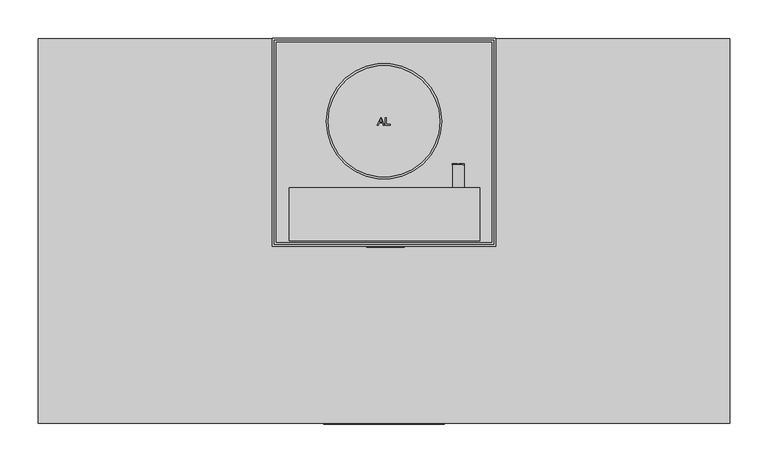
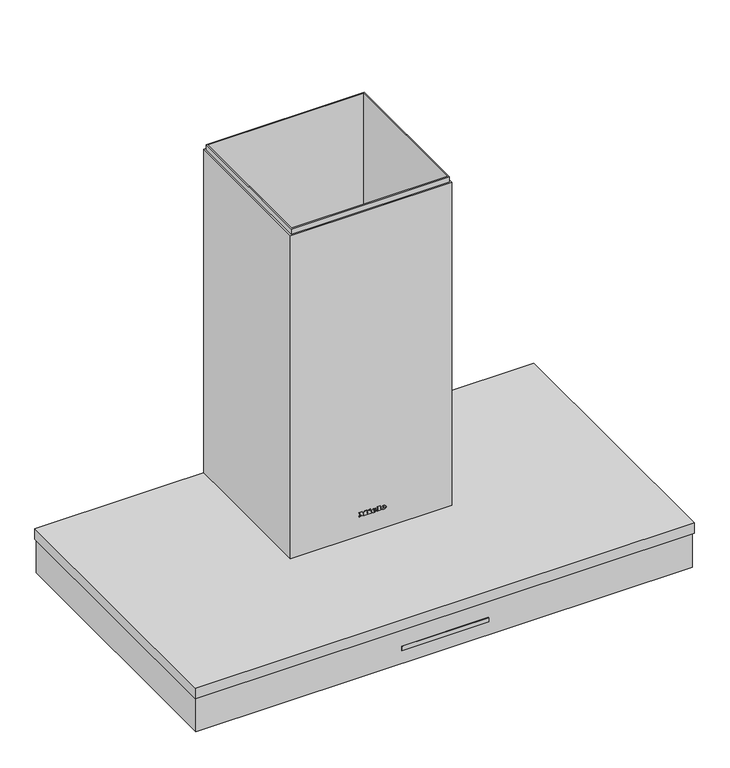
"""IFC4 building model written with IfcOpenShell, lengths in millimetres: proxy geometry, 10842840_CH_DA6698W_EDST : 28669850_CH_10842840_DA6698W_EDST."""

from ifc_helpers import new_model, si_unit, point, frame, frame_2d, origin, origin_with_axes, place, context, project, spatial, polyline, circle_curve, ellipse_curve, trimmed, segment, composite_curve, outline, extrude, faceted_brep, source, transform, mapped, element, save
from ifc_brep_helpers import plane_surface, cylinder_surface, revolved_surface, extruded_surface, advanced_brep


def specialty_equipment_41bf8d77(model_context):
    return source(origin(), model_context, "Body", "SolidModel", [
        advanced_brep(
        [(-270.0, -20.971114, 2.6236572), (-270.0, -76.028886, 17.3763428), (-270.0, -48.5, 10.0), (-270.0, -22.9370789, 1.9081045), (-270.0, -74.6840869, 15.7736735), (-270.0, -48.8105829, 8.840889)],
        [
            (0, 1, circle_curve(frame((-270.0, -48.5, 10.0), z_axis=(0.0, 0.25881904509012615, 0.9659258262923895), x_axis=(0.0, -0.9659258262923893, 0.2588190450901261)), 28.5)),
            (1, 2),
            (2, 0),
            (1, 0, circle_curve(frame((-270.0, -48.5, 10.0), z_axis=(0.0, 0.25881904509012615, 0.9659258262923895), x_axis=(0.0, -0.9659258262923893, 0.2588190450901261)), 28.5)),
            (0, 3),
            (3, 4, circle_curve(frame((-270.0, -48.8105829, 8.840889), z_axis=(0.0, 0.25881904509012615, 0.9659258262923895), x_axis=(0.0, -0.9659258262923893, 0.2588190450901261)), 26.7862224)),
            (4, 1),
            (4, 3, circle_curve(frame((-270.0, -48.8105829, 8.840889), z_axis=(0.0, 0.25881904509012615, 0.9659258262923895), x_axis=(0.0, -0.9659258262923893, 0.2588190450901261)), 26.7862224)),
            (3, 5),
            (5, 4),
        ],
        [
            plane_surface(frame((-270.0, -48.5, 10.0), z_axis=(0.0, 0.25881904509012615, 0.9659258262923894), x_axis=(0.0, -0.9659258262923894, 0.25881904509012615))),
            revolved_surface(polyline([(-270.0, -76.028886, 17.3763428), (-270.0, -74.6840869, 15.7736735)]), (-270.0, -48.5, 10.0), (0.0, -0.2588190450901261, -0.9659258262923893)),
            plane_surface(frame((-270.0, -48.8105829, 8.840889), z_axis=(0.0, -0.25881904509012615, -0.9659258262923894), x_axis=(0.0, -0.9659258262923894, 0.25881904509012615))),
        ],
        [
            (0, [[1, 2, 3]]),
            (0, [[-2, 4, -3]]),
            (1, [[-1, 5, 6, 7]]),
            (1, [[-4, -7, 8, -5]]),
            (2, [[-6, 9, 10]]),
            (2, [[-8, -10, -9]]),
        ],
    ),
        advanced_brep(
        [(0.0, -20.971114, 2.6236572), (0.0, -76.028886, 17.3763428), (0.0, -48.5, 10.0), (0.0, -22.9370789, 1.9081045), (0.0, -74.6840869, 15.7736735), (0.0, -48.8105829, 8.840889)],
        [
            (0, 1, circle_curve(frame((0.0, -48.5, 10.0), z_axis=(0.0, 0.2588190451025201, 0.9659258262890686), x_axis=(0.0, -0.9659258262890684, 0.25881904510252)), 28.5)),
            (1, 2),
            (2, 0),
            (1, 0, circle_curve(frame((0.0, -48.5, 10.0), z_axis=(0.0, 0.2588190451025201, 0.9659258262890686), x_axis=(0.0, -0.9659258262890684, 0.25881904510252)), 28.5)),
            (0, 3),
            (3, 4, circle_curve(frame((0.0, -48.8105829, 8.840889), z_axis=(0.0, 0.2588190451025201, 0.9659258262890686), x_axis=(0.0, -0.9659258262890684, 0.25881904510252)), 26.7862224)),
            (4, 1),
            (4, 3, circle_curve(frame((0.0, -48.8105829, 8.840889), z_axis=(0.0, 0.2588190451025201, 0.9659258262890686), x_axis=(0.0, -0.9659258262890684, 0.25881904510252)), 26.7862224)),
            (3, 5),
            (5, 4),
        ],
        [
            plane_surface(frame((0.0, -48.5, 10.0), z_axis=(0.0, 0.2588190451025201, 0.9659258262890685), x_axis=(0.0, -0.9659258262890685, 0.2588190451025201))),
            revolved_surface(polyline([(0.0, -76.028886, 17.3763428), (0.0, -74.6840869, 15.7736735)]), (0.0, -48.5, 10.0), (0.0, -0.25881904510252, -0.9659258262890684)),
            plane_surface(frame((0.0, -48.8105829, 8.840889), z_axis=(0.0, -0.2588190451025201, -0.9659258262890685), x_axis=(0.0, -0.9659258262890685, 0.2588190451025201))),
        ],
        [
            (0, [[1, 2, 3]]),
            (0, [[-2, 4, -3]]),
            (1, [[-1, 5, 6, 7]]),
            (1, [[-4, -7, 8, -5]]),
            (2, [[-6, 9, 10]]),
            (2, [[-8, -10, -9]]),
        ],
    ),
        advanced_brep(
        [(270.0, -20.971114, 2.6236572), (270.0, -76.028886, 17.3763428), (270.0, -48.5, 10.0), (270.0, -22.9370789, 1.9081045), (270.0, -74.6840869, 15.7736735), (270.0, -48.8105829, 8.840889)],
        [
            (0, 1, circle_curve(frame((270.0, -48.5, 10.0), z_axis=(0.0, 0.2588190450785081, 0.9659258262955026), x_axis=(0.0, -0.9659258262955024, 0.25881904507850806)), 28.5)),
            (1, 2),
            (2, 0),
            (1, 0, circle_curve(frame((270.0, -48.5, 10.0), z_axis=(0.0, 0.2588190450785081, 0.9659258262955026), x_axis=(0.0, -0.9659258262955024, 0.25881904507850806)), 28.5)),
            (0, 3),
            (3, 4, circle_curve(frame((270.0, -48.8105829, 8.840889), z_axis=(0.0, 0.2588190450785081, 0.9659258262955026), x_axis=(0.0, -0.9659258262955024, 0.25881904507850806)), 26.7862224)),
            (4, 1),
            (4, 3, circle_curve(frame((270.0, -48.8105829, 8.840889), z_axis=(0.0, 0.2588190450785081, 0.9659258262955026), x_axis=(0.0, -0.9659258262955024, 0.25881904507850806)), 26.7862224)),
            (3, 5),
            (5, 4),
        ],
        [
            plane_surface(frame((270.0, -48.5, 10.0), z_axis=(0.0, 0.2588190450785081, 0.9659258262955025), x_axis=(0.0, -0.9659258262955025, 0.2588190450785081))),
            revolved_surface(polyline([(270.0, -76.028886, 17.3763428), (270.0, -74.6840869, 15.7736735)]), (270.0, -48.5, 10.0), (0.0, -0.25881904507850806, -0.9659258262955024)),
            plane_surface(frame((270.0, -48.8105829, 8.840889), z_axis=(0.0, -0.2588190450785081, -0.9659258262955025), x_axis=(0.0, -0.9659258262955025, 0.2588190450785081))),
        ],
        [
            (0, [[1, 2, 3]]),
            (0, [[-2, 4, -3]]),
            (1, [[-1, 5, 6, 7]]),
            (1, [[-4, -7, 8, -5]]),
            (2, [[-6, 9, 10]]),
            (2, [[-8, -10, -9]]),
        ],
    ),
        extrude(outline(polyline([(131.6666667, -106.0), (131.6666667, -464.0), (-131.6666667, -464.0), (-131.6666667, -106.0), (131.6666667, -106.0)])), frame((0.0, 0.0, 6.5), z_axis=(0.0, 0.0, 1.0), x_axis=(1.0, 0.0, 0.0)), (0.0, 0.0, 1.0), 6.0),
        extrude(outline(polyline([(140.6666667, -97.0), (140.6666667, -473.0), (-140.6666667, -473.0), (-140.6666667, -97.0), (140.6666667, -97.0)]), holes=[polyline([(131.6666667, -106.0), (-131.6666667, -106.0), (-131.6666667, -464.0), (131.6666667, -464.0), (131.6666667, -106.0)])]), frame((0.0, 0.0, 5.0), z_axis=(0.0, 0.0, 1.0), x_axis=(1.0, 0.0, 0.0)), (0.0, 0.0, 1.0), 9.0),
        extrude(outline(polyline([(149.6666667, -106.0), (413.0, -106.0), (413.0, -464.0), (149.6666667, -464.0), (149.6666667, -106.0)])), frame((0.0, 0.0, 6.5), z_axis=(0.0, 0.0, 1.0), x_axis=(1.0, 0.0, 0.0)), (0.0, 0.0, 1.0), 6.0),
        extrude(outline(polyline([(140.6666667, -97.0), (422.0, -97.0), (422.0, -473.0), (140.6666667, -473.0), (140.6666667, -97.0)]), holes=[polyline([(149.6666667, -106.0), (149.6666667, -464.0), (413.0, -464.0), (413.0, -106.0), (149.6666667, -106.0)])]), frame((0.0, 0.0, 5.0), z_axis=(0.0, 0.0, 1.0), x_axis=(1.0, 0.0, 0.0)), (0.0, 0.0, 1.0), 9.0),
        extrude(outline(polyline([(-149.6666667, -106.0), (-149.6666667, -464.0), (-413.0, -464.0), (-413.0, -106.0), (-149.6666667, -106.0)])), frame((0.0, 0.0, 6.5), z_axis=(0.0, 0.0, 1.0), x_axis=(1.0, 0.0, 0.0)), (0.0, 0.0, 1.0), 6.0),
        extrude(outline(polyline([(-140.6666667, -97.0), (-140.6666667, -473.0), (-422.0, -473.0), (-422.0, -97.0), (-140.6666667, -97.0)]), holes=[polyline([(-149.6666667, -106.0), (-413.0, -106.0), (-413.0, -464.0), (-149.6666667, -464.0), (-149.6666667, -106.0)])]), frame((0.0, 0.0, 5.0), z_axis=(0.0, 0.0, 1.0), x_axis=(1.0, 0.0, 0.0)), (0.0, 0.0, 1.0), 9.0),
        extrude(outline(polyline([(16.5, -421.0), (16.5, -464.0), (-16.5, -464.0), (-16.5, -421.0), (16.5, -421.0)]), holes=[polyline([(10.0, -427.5), (-10.0, -427.5), (-10.0, -436.5), (10.0, -436.5), (10.0, -427.5)])]), frame((0.0, 0.0, 5.0), z_axis=(0.0, 0.0, 1.0), x_axis=(1.0, 0.0, 0.0)), (0.0, 0.0, 1.0), 1.5),
        extrude(outline(polyline([(264.8333333, -421.0), (297.8333333, -421.0), (297.8333333, -464.0), (264.8333333, -464.0), (264.8333333, -421.0)]), holes=[polyline([(271.3333333, -427.5), (271.3333333, -436.5), (291.1047662, -436.5), (291.1047662, -427.5), (271.3333333, -427.5)])]), frame((0.0, 0.0, 5.0), z_axis=(0.0, 0.0, 1.0), x_axis=(1.0, 0.0, 0.0)), (0.0, 0.0, 1.0), 1.5),
        extrude(outline(polyline([(-264.8333333, -421.0), (-264.8333333, -464.0), (-297.8333333, -464.0), (-297.8333333, -421.0), (-264.8333333, -421.0)]), holes=[polyline([(-271.3333333, -427.5), (-291.3333333, -427.5), (-291.3333333, -436.5), (-271.3333333, -436.5), (-271.3333333, -427.5)])]), frame((0.0, 0.0, 5.0), z_axis=(0.0, 0.0, 1.0), x_axis=(1.0, 0.0, 0.0)), (0.0, 0.0, 1.0), 1.5),
        faceted_brep([(-142.5, -267.5, 710.0), (142.5, -267.5, 710.0), (142.5, -2.5, 710.0), (-142.5, -2.5, 710.0), (140.0, -5.0, 710.0), (140.0, -265.0, 710.0), (-140.0, -265.0, 710.0), (-140.0, -5.0, 710.0), (-142.5, -267.5, 235.0), (-142.5, -2.5, 235.0), (142.5, -2.5, 235.0), (142.5, -267.5, 235.0), (140.0, -5.0, 235.0), (-140.0, -5.0, 235.0), (-140.0, -265.0, 235.0), (140.0, -265.0, 235.0), (-142.5, -247.0, 270.0), (-142.5, -236.4, 270.0), (-142.5, -236.4, 370.0), (-142.5, -247.0, 370.0), (-142.5, -225.8, 270.0), (-142.5, -215.2, 270.0), (-142.5, -215.2, 370.0), (-142.5, -225.8, 370.0), (-142.5, -204.6, 270.0), (-142.5, -194.0, 270.0), (-142.5, -194.0, 370.0), (-142.5, -204.6, 370.0), (-142.5, -183.4, 270.0), (-142.5, -172.8, 270.0), (-142.5, -172.8, 370.0), (-142.5, -183.4, 370.0), (-142.5, -162.2, 270.0), (-142.5, -151.6, 270.0), (-142.5, -151.6, 370.0), (-142.5, -162.2, 370.0), (-142.5, -141.0, 270.0), (-142.5, -129.0, 270.0), (-142.5, -129.0, 370.0), (-142.5, -141.0, 370.0), (-142.5, -118.4, 270.0), (-142.5, -107.8, 270.0), (-142.5, -107.8, 370.0), (-142.5, -118.4, 370.0), (-142.5, -97.2, 270.0), (-142.5, -86.6, 270.0), (-142.5, -86.6, 370.0), (-142.5, -97.2, 370.0), (-142.5, -76.0, 270.0), (-142.5, -65.4, 270.0), (-142.5, -65.4, 370.0), (-142.5, -76.0, 370.0), (-142.5, -54.8, 270.0), (-142.5, -44.2, 270.0), (-142.5, -44.2, 370.0), (-142.5, -54.8, 370.0), (-142.5, -33.6, 270.0), (-142.5, -23.0, 270.0), (-142.5, -23.0, 370.0), (-142.5, -33.6, 370.0), (121.0, -265.0, 270.0), (121.0, -265.0, 370.0), (109.0, -265.0, 370.0), (109.0, -265.0, 270.0), (-121.0, -265.0, 370.0), (-121.0, -265.0, 270.0), (-109.0, -265.0, 270.0), (-109.0, -265.0, 370.0), (-86.0, -265.0, 370.0), (-97.5, -265.0, 370.0), (-97.5, -265.0, 270.0), (-86.0, -265.0, 270.0), (-63.0, -265.0, 370.0), (-74.5, -265.0, 370.0), (-74.5, -265.0, 270.0), (-63.0, -265.0, 270.0), (-40.0, -265.0, 370.0), (-51.5, -265.0, 370.0), (-51.5, -265.0, 270.0), (-40.0, -265.0, 270.0), (-17.0, -265.0, 370.0), (-28.5, -265.0, 370.0), (-28.5, -265.0, 270.0), (-17.0, -265.0, 270.0), (5.5, -265.0, 370.0), (-5.5, -265.0, 370.0), (-5.5, -265.0, 270.0), (5.5, -265.0, 270.0), (28.5, -265.0, 370.0), (17.0, -265.0, 370.0), (17.0, -265.0, 270.0), (28.5, -265.0, 270.0), (51.5, -265.0, 370.0), (40.0, -265.0, 370.0), (40.0, -265.0, 270.0), (51.5, -265.0, 270.0), (74.5, -265.0, 370.0), (63.0, -265.0, 370.0), (63.0, -265.0, 270.0), (74.5, -265.0, 270.0), (97.5, -265.0, 370.0), (86.0, -265.0, 370.0), (86.0, -265.0, 270.0), (97.5, -265.0, 270.0), (-140.0, -236.4, 270.0), (-140.0, -247.0, 270.0), (-140.0, -247.0, 370.0), (-140.0, -236.4, 370.0), (-140.0, -215.2, 270.0), (-140.0, -225.8, 270.0), (-140.0, -225.8, 370.0), (-140.0, -215.2, 370.0), (-140.0, -194.0, 270.0), (-140.0, -204.6, 270.0), (-140.0, -204.6, 370.0), (-140.0, -194.0, 370.0), (-140.0, -172.8, 270.0), (-140.0, -183.4, 270.0), (-140.0, -183.4, 370.0), (-140.0, -172.8, 370.0), (-140.0, -151.6, 270.0), (-140.0, -162.2, 270.0), (-140.0, -162.2, 370.0), (-140.0, -151.6, 370.0), (-140.0, -129.0, 270.0), (-140.0, -141.0, 270.0), (-140.0, -141.0, 370.0), (-140.0, -129.0, 370.0), (-140.0, -107.8, 270.0), (-140.0, -118.4, 270.0), (-140.0, -118.4, 370.0), (-140.0, -107.8, 370.0), (-140.0, -86.6, 270.0), (-140.0, -97.2, 270.0), (-140.0, -97.2, 370.0), (-140.0, -86.6, 370.0), (-140.0, -65.4, 270.0), (-140.0, -76.0, 270.0), (-140.0, -76.0, 370.0), (-140.0, -65.4, 370.0), (-140.0, -44.2, 270.0), (-140.0, -54.8, 270.0), (-140.0, -54.8, 370.0), (-140.0, -44.2, 370.0), (-140.0, -23.0, 270.0), (-140.0, -33.6, 270.0), (-140.0, -33.6, 370.0), (-140.0, -23.0, 370.0), (140.0, -247.0, 370.0), (140.0, -247.0, 270.0), (140.0, -236.4, 270.0), (140.0, -236.4, 370.0), (140.0, -23.0, 270.0), (140.0, -23.0, 370.0), (140.0, -33.6, 370.0), (140.0, -33.6, 270.0), (140.0, -225.8, 370.0), (140.0, -225.8, 270.0), (140.0, -215.2, 270.0), (140.0, -215.2, 370.0), (140.0, -204.6, 370.0), (140.0, -204.6, 270.0), (140.0, -194.0, 270.0), (140.0, -194.0, 370.0), (140.0, -183.4, 370.0), (140.0, -183.4, 270.0), (140.0, -172.8, 270.0), (140.0, -172.8, 370.0), (140.0, -162.2, 370.0), (140.0, -162.2, 270.0), (140.0, -151.6, 270.0), (140.0, -151.6, 370.0), (140.0, -44.2, 270.0), (140.0, -44.2, 370.0), (140.0, -54.8, 370.0), (140.0, -54.8, 270.0), (140.0, -65.4, 270.0), (140.0, -65.4, 370.0), (140.0, -76.0, 370.0), (140.0, -76.0, 270.0), (140.0, -86.6, 270.0), (140.0, -86.6, 370.0), (140.0, -97.2, 370.0), (140.0, -97.2, 270.0), (140.0, -107.8, 270.0), (140.0, -107.8, 370.0), (140.0, -118.4, 370.0), (140.0, -118.4, 270.0), (140.0, -129.0, 270.0), (140.0, -129.0, 370.0), (140.0, -141.0, 370.0), (140.0, -141.0, 270.0), (142.5, -23.0, 370.0), (142.5, -23.0, 270.0), (142.5, -33.6, 270.0), (142.5, -33.6, 370.0), (142.5, -247.0, 270.0), (142.5, -247.0, 370.0), (142.5, -236.4, 370.0), (142.5, -236.4, 270.0), (142.5, -225.8, 270.0), (142.5, -225.8, 370.0), (142.5, -215.2, 370.0), (142.5, -215.2, 270.0), (142.5, -204.6, 270.0), (142.5, -204.6, 370.0), (142.5, -194.0, 370.0), (142.5, -194.0, 270.0), (142.5, -183.4, 270.0), (142.5, -183.4, 370.0), (142.5, -172.8, 370.0), (142.5, -172.8, 270.0), (142.5, -162.2, 270.0), (142.5, -162.2, 370.0), (142.5, -151.6, 370.0), (142.5, -151.6, 270.0), (142.5, -44.2, 370.0), (142.5, -44.2, 270.0), (142.5, -54.8, 270.0), (142.5, -54.8, 370.0), (142.5, -65.4, 370.0), (142.5, -65.4, 270.0), (142.5, -76.0, 270.0), (142.5, -76.0, 370.0), (142.5, -86.6, 370.0), (142.5, -86.6, 270.0), (142.5, -97.2, 270.0), (142.5, -97.2, 370.0), (142.5, -107.8, 370.0), (142.5, -107.8, 270.0), (142.5, -118.4, 270.0), (142.5, -118.4, 370.0), (142.5, -129.0, 370.0), (142.5, -129.0, 270.0), (142.5, -141.0, 270.0), (142.5, -141.0, 370.0), (121.0, -267.5, 370.0), (121.0, -267.5, 270.0), (109.0, -267.5, 270.0), (109.0, -267.5, 370.0), (-121.0, -267.5, 270.0), (-121.0, -267.5, 370.0), (-109.0, -267.5, 370.0), (-109.0, -267.5, 270.0), (-97.5, -267.5, 370.0), (-86.0, -267.5, 370.0), (-86.0, -267.5, 270.0), (-97.5, -267.5, 270.0), (-74.5, -267.5, 370.0), (-63.0, -267.5, 370.0), (-63.0, -267.5, 270.0), (-74.5, -267.5, 270.0), (-51.5, -267.5, 370.0), (-40.0, -267.5, 370.0), (-40.0, -267.5, 270.0), (-51.5, -267.5, 270.0), (-28.5, -267.5, 370.0), (-17.0, -267.5, 370.0), (-17.0, -267.5, 270.0), (-28.5, -267.5, 270.0), (-5.5, -267.5, 370.0), (5.5, -267.5, 370.0), (5.5, -267.5, 270.0), (-5.5, -267.5, 270.0), (17.0, -267.5, 370.0), (28.5, -267.5, 370.0), (28.5, -267.5, 270.0), (17.0, -267.5, 270.0), (40.0, -267.5, 370.0), (51.5, -267.5, 370.0), (51.5, -267.5, 270.0), (40.0, -267.5, 270.0), (63.0, -267.5, 370.0), (74.5, -267.5, 370.0), (74.5, -267.5, 270.0), (63.0, -267.5, 270.0), (86.0, -267.5, 370.0), (97.5, -267.5, 370.0), (97.5, -267.5, 270.0), (86.0, -267.5, 270.0)], [[[0, 1, 2, 3], [4, 5, 6, 7]], [[8, 9, 10, 11], [12, 13, 14, 15]], [[0, 3, 9, 8], [16, 17, 18, 19], [20, 21, 22, 23], [24, 25, 26, 27], [28, 29, 30, 31], [32, 33, 34, 35], [36, 37, 38, 39], [40, 41, 42, 43], [44, 45, 46, 47], [48, 49, 50, 51], [52, 53, 54, 55], [56, 57, 58, 59]], [[6, 5, 15, 14], [60, 61, 62, 63], [64, 65, 66, 67], [68, 69, 70, 71], [72, 73, 74, 75], [76, 77, 78, 79], [80, 81, 82, 83], [84, 85, 86, 87], [88, 89, 90, 91], [92, 93, 94, 95], [96, 97, 98, 99], [100, 101, 102, 103]], [[7, 6, 14, 13], [104, 105, 106, 107], [108, 109, 110, 111], [112, 113, 114, 115], [116, 117, 118, 119], [120, 121, 122, 123], [124, 125, 126, 127], [128, 129, 130, 131], [132, 133, 134, 135], [136, 137, 138, 139], [140, 141, 142, 143], [144, 145, 146, 147]], [[5, 4, 12, 15], [148, 149, 150, 151], [152, 153, 154, 155], [156, 157, 158, 159], [160, 161, 162, 163], [164, 165, 166, 167], [168, 169, 170, 171], [172, 173, 174, 175], [176, 177, 178, 179], [180, 181, 182, 183], [184, 185, 186, 187], [188, 189, 190, 191]], [[2, 1, 11, 10], [192, 193, 194, 195], [196, 197, 198, 199], [200, 201, 202, 203], [204, 205, 206, 207], [208, 209, 210, 211], [212, 213, 214, 215], [216, 217, 218, 219], [220, 221, 222, 223], [224, 225, 226, 227], [228, 229, 230, 231], [232, 233, 234, 235]], [[1, 0, 8, 11], [236, 237, 238, 239], [240, 241, 242, 243], [244, 245, 246, 247], [248, 249, 250, 251], [252, 253, 254, 255], [256, 257, 258, 259], [260, 261, 262, 263], [264, 265, 266, 267], [268, 269, 270, 271], [272, 273, 274, 275], [276, 277, 278, 279]], [[3, 2, 10, 9]], [[4, 7, 13, 12]], [[60, 237, 236, 61]], [[64, 241, 240, 65]], [[196, 149, 148, 197]], [[192, 153, 152, 193]], [[149, 196, 199, 150]], [[150, 199, 198, 151]], [[197, 148, 151, 198]], [[153, 192, 195, 154]], [[154, 195, 194, 155]], [[193, 152, 155, 194]], [[200, 157, 156, 201]], [[157, 200, 203, 158]], [[158, 203, 202, 159]], [[201, 156, 159, 202]], [[204, 161, 160, 205]], [[161, 204, 207, 162]], [[162, 207, 206, 163]], [[205, 160, 163, 206]], [[208, 165, 164, 209]], [[165, 208, 211, 166]], [[166, 211, 210, 167]], [[209, 164, 167, 210]], [[212, 169, 168, 213]], [[169, 212, 215, 170]], [[170, 215, 214, 171]], [[213, 168, 171, 214]], [[216, 173, 172, 217]], [[173, 216, 219, 174]], [[174, 219, 218, 175]], [[217, 172, 175, 218]], [[220, 177, 176, 221]], [[177, 220, 223, 178]], [[178, 223, 222, 179]], [[221, 176, 179, 222]], [[224, 181, 180, 225]], [[181, 224, 227, 182]], [[182, 227, 226, 183]], [[225, 180, 183, 226]], [[228, 185, 184, 229]], [[185, 228, 231, 186]], [[186, 231, 230, 187]], [[229, 184, 187, 230]], [[232, 189, 188, 233]], [[189, 232, 235, 190]], [[190, 235, 234, 191]], [[233, 188, 191, 234]], [[104, 17, 16, 105]], [[17, 104, 107, 18]], [[18, 107, 106, 19]], [[105, 16, 19, 106]], [[108, 21, 20, 109]], [[21, 108, 111, 22]], [[22, 111, 110, 23]], [[109, 20, 23, 110]], [[112, 25, 24, 113]], [[25, 112, 115, 26]], [[26, 115, 114, 27]], [[113, 24, 27, 114]], [[116, 29, 28, 117]], [[29, 116, 119, 30]], [[30, 119, 118, 31]], [[117, 28, 31, 118]], [[120, 33, 32, 121]], [[33, 120, 123, 34]], [[34, 123, 122, 35]], [[121, 32, 35, 122]], [[124, 37, 36, 125]], [[37, 124, 127, 38]], [[38, 127, 126, 39]], [[125, 36, 39, 126]], [[128, 41, 40, 129]], [[41, 128, 131, 42]], [[42, 131, 130, 43]], [[129, 40, 43, 130]], [[132, 45, 44, 133]], [[45, 132, 135, 46]], [[46, 135, 134, 47]], [[133, 44, 47, 134]], [[136, 49, 48, 137]], [[49, 136, 139, 50]], [[50, 139, 138, 51]], [[137, 48, 51, 138]], [[140, 53, 52, 141]], [[53, 140, 143, 54]], [[54, 143, 142, 55]], [[141, 52, 55, 142]], [[144, 57, 56, 145]], [[57, 144, 147, 58]], [[58, 147, 146, 59]], [[145, 56, 59, 146]], [[241, 64, 67, 242]], [[242, 67, 66, 243]], [[65, 240, 243, 66]], [[237, 60, 63, 238]], [[238, 63, 62, 239]], [[61, 236, 239, 62]], [[68, 245, 244, 69]], [[245, 68, 71, 246]], [[246, 71, 70, 247]], [[69, 244, 247, 70]], [[72, 249, 248, 73]], [[249, 72, 75, 250]], [[250, 75, 74, 251]], [[73, 248, 251, 74]], [[76, 253, 252, 77]], [[253, 76, 79, 254]], [[254, 79, 78, 255]], [[77, 252, 255, 78]], [[80, 257, 256, 81]], [[257, 80, 83, 258]], [[258, 83, 82, 259]], [[81, 256, 259, 82]], [[84, 261, 260, 85]], [[261, 84, 87, 262]], [[262, 87, 86, 263]], [[85, 260, 263, 86]], [[88, 265, 264, 89]], [[265, 88, 91, 266]], [[266, 91, 90, 267]], [[89, 264, 267, 90]], [[92, 269, 268, 93]], [[269, 92, 95, 270]], [[270, 95, 94, 271]], [[93, 268, 271, 94]], [[96, 273, 272, 97]], [[273, 96, 99, 274]], [[274, 99, 98, 275]], [[97, 272, 275, 98]], [[100, 277, 276, 101]], [[277, 100, 103, 278]], [[278, 103, 102, 279]], [[101, 276, 279, 102]]]),
        extrude(outline(polyline([(145.0, 0.0), (145.0, -270.0), (-145.0, -270.0), (-145.0, 0.0), (145.0, 0.0)]), holes=[polyline([(-142.5, -2.5), (-142.5, -267.5), (142.5, -267.5), (142.5, -2.5), (-142.5, -2.5)])]), frame((0.0, 0.0, 85.0), z_axis=(0.0, 0.0, 1.0), x_axis=(1.0, 0.0, 0.0)), (0.0, 0.0, 1.0), 615.0),
        advanced_brep(
        [(21.104, -271.0, 123.896), (21.104, -271.0, 124.704), (26.456, -271.0, 124.704), (17.144, -271.0, 124.704), (19.344, -271.0, 122.0), (26.32, -271.0, 123.896), (23.904, -271.0, 123.896), (22.0, -271.0, 123.0), (21.104, -271.0, 125.728), (21.104, -271.0, 126.6), (22.472, -271.0, 126.6), (22.472, -271.0, 125.728), (21.104, -270.0, 123.896), (22.0, -270.0, 123.0), (23.904, -270.0, 123.896), (26.32, -270.0, 123.896), (19.344, -270.0, 122.0), (17.144, -270.0, 124.704), (26.456, -270.0, 124.704), (21.104, -270.0, 124.704), (21.104, -270.0, 125.728), (22.472, -270.0, 125.728), (22.472, -270.0, 126.6), (21.104, -270.0, 126.6)],
        [
            (0, 1),
            (1, 2),
            (2, 3, ellipse_curve(frame((21.8, -271.0, 124.704), z_axis=(0.0, -1.0, -1.2192856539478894e-11), x_axis=(-1.0, 0.0, 0.0)), 4.656, 3.848)),
            (3, 4, circle_curve(frame((20.2400436, -271.0, 124.976), z_axis=(0.0, -1.0, -1.2192856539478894e-11), x_axis=(0.0, 1.2192856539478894e-11, -1.0)), 3.1079688)),
            (4, 5, circle_curve(frame((21.7067936, -271.0, 127.088), z_axis=(0.0, -1.0, -1.2192856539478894e-11), x_axis=(0.0, 1.2192856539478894e-11, -1.0)), 5.6098607)),
            (5, 6),
            (6, 7, circle_curve(frame((22.3910588, -271.0, 124.64), z_axis=(0.0, 1.0, 1.2192856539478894e-11), x_axis=(0.0, 1.2192856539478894e-11, -1.0)), 1.6859795)),
            (7, 0, circle_curve(frame((22.0, -271.0, 123.896), z_axis=(0.0, 1.0, 1.2192856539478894e-11), x_axis=(0.0, 1.2192856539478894e-11, -1.0)), 0.896)),
            (8, 9),
            (9, 10, circle_curve(frame((21.788, -271.0, 126.6), z_axis=(0.0, 1.0, 1.2192856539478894e-11), x_axis=(0.0, 1.2192856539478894e-11, -1.0)), 0.684)),
            (10, 11),
            (11, 8),
            (12, 13, circle_curve(frame((22.0, -270.0, 123.896), z_axis=(0.0, -1.0, -1.2192856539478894e-11), x_axis=(0.0, 1.2192856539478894e-11, -1.0)), 0.896)),
            (13, 14, circle_curve(frame((22.3910588, -270.0, 124.64), z_axis=(0.0, -1.0, -1.2192856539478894e-11), x_axis=(0.0, 1.2192856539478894e-11, -1.0)), 1.6859795)),
            (14, 15),
            (15, 16, circle_curve(frame((21.7067936, -270.0, 127.088), z_axis=(0.0, 1.0, 1.2192856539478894e-11), x_axis=(0.0, 1.2192856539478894e-11, -1.0)), 5.6098607)),
            (16, 17, circle_curve(frame((20.2400436, -270.0, 124.976), z_axis=(0.0, 1.0, 1.2192856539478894e-11), x_axis=(0.0, 1.2192856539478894e-11, -1.0)), 3.1079688)),
            (17, 18, ellipse_curve(frame((21.8, -270.0, 124.704), z_axis=(0.0, 1.0, 1.2192856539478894e-11), x_axis=(-1.0, 0.0, 0.0)), 4.656, 3.848)),
            (18, 19),
            (19, 12),
            (20, 21),
            (21, 22),
            (22, 23, circle_curve(frame((21.788, -270.0, 126.6), z_axis=(0.0, -1.0, -1.2192856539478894e-11), x_axis=(0.0, 1.2192856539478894e-11, -1.0)), 0.684)),
            (23, 20),
            (0, 12),
            (19, 1),
            (18, 2),
            (5, 15),
            (14, 6),
            (17, 3),
            (13, 7),
            (16, 4),
            (8, 20),
            (23, 9),
            (22, 10),
            (21, 11),
        ],
        [
            plane_surface(frame((21.104, -271.0, 124.704), z_axis=(0.0, -1.0, -1.2192856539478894e-11), x_axis=(0.0, -1.2192856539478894e-11, 1.0))),
            plane_surface(frame((21.104, -270.0, 124.704), z_axis=(0.0, 1.0, 1.2192856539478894e-11), x_axis=(0.0, 1.2192856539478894e-11, -1.0))),
            plane_surface(frame((21.104, -271.0, 123.896), z_axis=(1.0, 0.0, 0.0), x_axis=(0.0, 1.0, 1.2192856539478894e-11))),
            plane_surface(frame((21.104, -271.0, 124.704), z_axis=(0.0, 1.2192856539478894e-11, -1.0), x_axis=(0.0, 1.0, 1.2192856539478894e-11))),
            plane_surface(frame((26.32, -271.0, 123.896), z_axis=(0.0, -1.2192856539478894e-11, 1.0), x_axis=(0.0, 1.0, 1.2192856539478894e-11))),
            extruded_surface(trimmed(ellipse_curve(frame((21.8, -269.0, 124.704), z_axis=(0.0, -1.0, -1.2192856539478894e-11), x_axis=(-1.0, 0.0, 0.0)), 4.656, 3.848), [point((26.456, -269.0, 124.704))], [point((17.144, -269.0, 124.704))], True, "CARTESIAN"), (0.0, -1.0, 0.0), 1.0),
            revolved_surface(polyline([(22.3910588, -269.9999999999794, 122.9540205), (22.3910588, -270.99999999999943, 122.9540204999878)]), (22.3910588, -270.0, 124.64), (0.0, 1.0, 1.2192856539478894e-11)),
            revolved_surface(polyline([(22.0, -269.9999999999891, 123.0), (22.0, -271.0, 122.9999999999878)]), (22.0, -270.0, 123.896), (0.0, 1.0, 1.2192856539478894e-11)),
            cylinder_surface(frame((20.2400436, -270.0, 124.976), z_axis=(0.0, -1.0, -1.2192856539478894e-11), x_axis=(0.0, 1.2192856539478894e-11, -1.0)), 3.1079688),
            cylinder_surface(frame((21.7067936, -270.0, 127.088), z_axis=(0.0, -1.0, -1.2192856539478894e-11), x_axis=(0.0, 1.2192856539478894e-11, -1.0)), 5.6098607),
            plane_surface(frame((21.104, -271.0, 125.728), z_axis=(1.0, 0.0, 0.0), x_axis=(0.0, 1.0, 1.2192856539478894e-11))),
            revolved_surface(polyline([(21.788, -269.99999999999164, 125.916), (21.788, -270.99999999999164, 125.9159999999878)]), (21.788, -270.0, 126.6), (0.0, 1.0, 1.2192856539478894e-11)),
            plane_surface(frame((22.472, -271.0, 126.6), z_axis=(-1.0, 0.0, 0.0), x_axis=(0.0, 1.0, 1.2192856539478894e-11))),
            plane_surface(frame((22.472, -271.0, 125.728), z_axis=(0.0, -1.2192856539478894e-11, 1.0), x_axis=(0.0, 1.0, 1.2192856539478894e-11))),
        ],
        [
            (0, [[1, 2, 3, 4, 5, 6, 7, 8], [9, 10, 11, 12]]),
            (1, [[13, 14, 15, 16, 17, 18, 19, 20], [21, 22, 23, 24]]),
            (2, [[-1, 25, -20, 26]]),
            (3, [[-2, -26, -19, 27]]),
            (4, [[-6, 28, -15, 29]]),
            (5, [[-3, -27, -18, 30]]),
            (6, [[-7, -29, -14, 31]]),
            (7, [[-8, -31, -13, -25]]),
            (8, [[-4, -30, -17, 32]]),
            (9, [[-5, -32, -16, -28]]),
            (10, [[-9, 33, -24, 34]]),
            (11, [[-10, -34, -23, 35]]),
            (12, [[-11, -35, -22, 36]]),
            (13, [[-12, -36, -21, -33]]),
        ],
    ),
        advanced_brep(
        [(4.408, -271.0, 123.896), (4.408, -271.0, 124.704), (9.76, -271.0, 124.704), (0.448, -271.0, 124.704), (2.648, -271.0, 122.0), (9.624, -271.0, 123.896), (7.208, -271.0, 123.896), (5.304, -271.0, 123.0), (4.408, -271.0, 125.728), (4.408, -271.0, 126.6), (5.776, -271.0, 126.6), (5.776, -271.0, 125.728), (4.408, -270.0, 123.896), (5.304, -270.0, 123.0), (7.208, -270.0, 123.896), (9.624, -270.0, 123.896), (2.648, -270.0, 122.0), (0.448, -270.0, 124.704), (9.76, -270.0, 124.704), (4.408, -270.0, 124.704), (4.408, -270.0, 125.728), (5.776, -270.0, 125.728), (5.776, -270.0, 126.6), (4.408, -270.0, 126.6)],
        [
            (0, 1),
            (1, 2),
            (2, 3, ellipse_curve(frame((5.104, -271.0, 124.704), z_axis=(0.0, -1.0, -1.2192856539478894e-11), x_axis=(-1.0, 0.0, 0.0)), 4.656, 3.848)),
            (3, 4, circle_curve(frame((3.5440436, -271.0, 124.976), z_axis=(0.0, -1.0, -1.2192856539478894e-11), x_axis=(0.0, 1.2192856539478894e-11, -1.0)), 3.1079688)),
            (4, 5, circle_curve(frame((5.0107936, -271.0, 127.088), z_axis=(0.0, -1.0, -1.2192856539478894e-11), x_axis=(0.0, 1.2192856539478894e-11, -1.0)), 5.6098607)),
            (5, 6),
            (6, 7, circle_curve(frame((5.6950588, -271.0, 124.64), z_axis=(0.0, 1.0, 1.2192856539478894e-11), x_axis=(0.0, 1.2192856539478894e-11, -1.0)), 1.6859795)),
            (7, 0, circle_curve(frame((5.304, -271.0, 123.896), z_axis=(0.0, 1.0, 1.2192856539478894e-11), x_axis=(0.0, 1.2192856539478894e-11, -1.0)), 0.896)),
            (8, 9),
            (9, 10, circle_curve(frame((5.092, -271.0, 126.6), z_axis=(0.0, 1.0, 1.2192856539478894e-11), x_axis=(0.0, 1.2192856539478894e-11, -1.0)), 0.684)),
            (10, 11),
            (11, 8),
            (12, 13, circle_curve(frame((5.304, -270.0, 123.896), z_axis=(0.0, -1.0, -1.2192856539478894e-11), x_axis=(0.0, 1.2192856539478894e-11, -1.0)), 0.896)),
            (13, 14, circle_curve(frame((5.6950588, -270.0, 124.64), z_axis=(0.0, -1.0, -1.2192856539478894e-11), x_axis=(0.0, 1.2192856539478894e-11, -1.0)), 1.6859795)),
            (14, 15),
            (15, 16, circle_curve(frame((5.0107936, -270.0, 127.088), z_axis=(0.0, 1.0, 1.2192856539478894e-11), x_axis=(0.0, 1.2192856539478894e-11, -1.0)), 5.6098607)),
            (16, 17, circle_curve(frame((3.5440436, -270.0, 124.976), z_axis=(0.0, 1.0, 1.2192856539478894e-11), x_axis=(0.0, 1.2192856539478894e-11, -1.0)), 3.1079688)),
            (17, 18, ellipse_curve(frame((5.104, -270.0, 124.704), z_axis=(0.0, 1.0, 1.2192856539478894e-11), x_axis=(-1.0, 0.0, 0.0)), 4.656, 3.848)),
            (18, 19),
            (19, 12),
            (20, 21),
            (21, 22),
            (22, 23, circle_curve(frame((5.092, -270.0, 126.6), z_axis=(0.0, -1.0, -1.2192856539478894e-11), x_axis=(0.0, 1.2192856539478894e-11, -1.0)), 0.684)),
            (23, 20),
            (0, 12),
            (19, 1),
            (18, 2),
            (5, 15),
            (14, 6),
            (17, 3),
            (13, 7),
            (16, 4),
            (8, 20),
            (23, 9),
            (22, 10),
            (21, 11),
        ],
        [
            plane_surface(frame((4.408, -271.0, 124.704), z_axis=(0.0, -1.0, -1.2192856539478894e-11), x_axis=(0.0, -1.2192856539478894e-11, 1.0))),
            plane_surface(frame((4.408, -270.0, 124.704), z_axis=(0.0, 1.0, 1.2192856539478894e-11), x_axis=(0.0, 1.2192856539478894e-11, -1.0))),
            plane_surface(frame((4.408, -271.0, 123.896), z_axis=(1.0, 0.0, 0.0), x_axis=(0.0, 1.0, 1.2192856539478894e-11))),
            plane_surface(frame((4.408, -271.0, 124.704), z_axis=(0.0, 1.2192856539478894e-11, -1.0), x_axis=(0.0, 1.0, 1.2192856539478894e-11))),
            plane_surface(frame((9.624, -271.0, 123.896), z_axis=(0.0, -1.2192856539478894e-11, 1.0), x_axis=(0.0, 1.0, 1.2192856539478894e-11))),
            extruded_surface(trimmed(ellipse_curve(frame((5.104, -269.0, 124.704), z_axis=(0.0, -1.0, -1.2192856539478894e-11), x_axis=(-1.0, 0.0, 0.0)), 4.656, 3.848), [point((9.76, -269.0, 124.704))], [point((0.448, -269.0, 124.704))], True, "CARTESIAN"), (0.0, -1.0, 0.0), 1.0),
            revolved_surface(polyline([(5.6950588, -269.9999999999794, 122.9540205), (5.6950588, -270.99999999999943, 122.9540204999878)]), (5.6950588, -270.0, 124.64), (0.0, 1.0, 1.2192856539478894e-11)),
            revolved_surface(polyline([(5.304, -269.9999999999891, 123.0), (5.304, -271.0, 122.9999999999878)]), (5.304, -270.0, 123.896), (0.0, 1.0, 1.2192856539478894e-11)),
            cylinder_surface(frame((3.5440436, -270.0, 124.976), z_axis=(0.0, -1.0, -1.2192856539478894e-11), x_axis=(0.0, 1.2192856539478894e-11, -1.0)), 3.1079688),
            cylinder_surface(frame((5.0107936, -270.0, 127.088), z_axis=(0.0, -1.0, -1.2192856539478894e-11), x_axis=(0.0, 1.2192856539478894e-11, -1.0)), 5.6098607),
            plane_surface(frame((4.408, -271.0, 125.728), z_axis=(1.0, 0.0, 0.0), x_axis=(0.0, 1.0, 1.2192856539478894e-11))),
            revolved_surface(polyline([(5.092, -269.99999999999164, 125.916), (5.092, -270.99999999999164, 125.9159999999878)]), (5.092, -270.0, 126.6), (0.0, 1.0, 1.2192856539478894e-11)),
            plane_surface(frame((5.776, -271.0, 126.6), z_axis=(-1.0, 0.0, 0.0), x_axis=(0.0, 1.0, 1.2192856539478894e-11))),
            plane_surface(frame((5.776, -271.0, 125.728), z_axis=(0.0, -1.2192856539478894e-11, 1.0), x_axis=(0.0, 1.0, 1.2192856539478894e-11))),
        ],
        [
            (0, [[1, 2, 3, 4, 5, 6, 7, 8], [9, 10, 11, 12]]),
            (1, [[13, 14, 15, 16, 17, 18, 19, 20], [21, 22, 23, 24]]),
            (2, [[-1, 25, -20, 26]]),
            (3, [[-2, -26, -19, 27]]),
            (4, [[-6, 28, -15, 29]]),
            (5, [[-3, -27, -18, 30]]),
            (6, [[-7, -29, -14, 31]]),
            (7, [[-8, -31, -13, -25]]),
            (8, [[-4, -30, -17, 32]]),
            (9, [[-5, -32, -16, -28]]),
            (10, [[-9, 33, -24, 34]]),
            (11, [[-10, -34, -23, 35]]),
            (12, [[-11, -35, -22, 36]]),
            (13, [[-12, -36, -21, -33]]),
        ],
    ),
        extrude(outline(polyline([(0.0, 0.0), (1.4315306, 0.0), (1.4390415, -2.9920868), (0.0109086, -2.9993294), (0.0, 0.0)])), frame((-4.336, -271.0, 129.528), z_axis=(0.0, 1.0, 1.2192856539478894e-11), x_axis=(0.42472021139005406, 1.1041186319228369e-11, -0.9053246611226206)), (0.0, 0.0, 1.0), 1.0),
        extrude(outline(polyline([(0.4933908, 2.4141097), (1.7898157, 3.022309), (2.1941493, 2.1604399), (5.1636142, 3.5535222), (4.7592806, 4.4153913), (5.9760369, 4.9862153), (8.6568709, -0.728194), (7.4401145, -1.2990179), (7.0459742, -0.4588767), (2.7800844, -2.4601583), (0.4933908, 2.4141097)])), frame((-4.336, -271.0, 129.528), z_axis=(0.0, 1.0, 1.2192856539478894e-11), x_axis=(0.42472021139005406, 1.1041186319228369e-11, -0.9053246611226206)), (0.0, 0.0, 1.0), 1.0),
        extrude(outline(polyline([(0.0, 0.0), (0.96, 0.0), (0.96, 5.352), (0.0, 5.352), (0.0, 6.696), (6.488, 6.696), (6.488, 5.352), (5.504, 5.352), (5.504, -1.304), (0.0, -1.304), (0.0, 0.0)])), frame((10.208, -271.0, 128.696), z_axis=(0.0, 1.0, 1.2192856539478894e-11), x_axis=(1.0, 0.0, 0.0)), (0.0, 0.0, 1.0), 1.0),
        extrude(outline(polyline([(0.0, 0.0), (0.968, 0.0), (0.968, 5.352), (0.0, 5.352), (0.0, 6.696), (3.52, 6.696), (3.52, 5.352), (2.56, 5.352), (2.56, 1.9488753), (6.136, 6.696), (9.728, 1.8807777), (9.728, 5.352), (8.744, 5.352), (8.744, 6.696), (15.128, 6.696), (15.128, 5.352), (14.112, 5.352), (14.112, 0.0), (15.128, 0.0), (15.128, -1.304), (10.256, -1.304), (7.92, 1.696), (5.576, -1.304), (0.0, -1.304), (0.0, 0.0)])), frame((-22.256, -271.0, 128.696), z_axis=(0.0, 1.0, 1.2192856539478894e-11), x_axis=(1.0, 0.0, 0.0)), (0.0, 0.0, 1.0), 1.0),
        extrude(outline(polyline([(78.0, -500.0), (78.0, -501.0), (-78.0, -501.0), (-78.0, -500.0), (78.0, -500.0)])), frame((0.0, 0.0, 27.0), z_axis=(0.0, 0.0, 1.0), x_axis=(1.0, 0.0, 0.0)), (0.0, 0.0, 1.0), 8.0),
        extrude(outline(polyline([(-443.0, 0.0), (-443.0, -494.0), (443.0, -494.0), (443.0, 0.0), (446.5, 0.0), (446.5, -497.5), (-446.5, -497.5), (-446.5, 0.0), (-443.0, 0.0)])), origin_with_axes(), (0.0, 0.0, 1.0), 65.0),
        faceted_brep([(449.0, 0.0, 85.0), (-449.0, 0.0, 85.0), (-449.0, -500.0, 85.0), (449.0, -500.0, 85.0), (422.0, -473.0, 0.0), (422.0, 0.0, 0.0), (443.0, 0.0, 0.0), (443.0, -494.0, 0.0), (-443.0, -494.0, 0.0), (-443.0, 0.0, 0.0), (-422.0, 0.0, 0.0), (-422.0, -473.0, 0.0), (449.0, 0.0, 65.0), (443.0, 0.0, 65.0), (422.0, 0.0, 2.0), (-422.0, 0.0, 2.0), (-443.0, 0.0, 65.0), (-449.0, 0.0, 65.0), (-449.0, -500.0, 65.0), (449.0, -500.0, 65.0), (422.0, -473.0, 13.7), (422.0, -97.0, 13.7), (422.0, -97.0, 2.0), (422.0, -94.2, 2.0), (422.0, -78.2, 18.0), (422.0, -18.5, 2.0), (-422.0, -473.0, 13.7), (-422.0, -18.5, 2.0), (-422.0, -78.2, 18.0), (-422.0, -94.2, 2.0), (-422.0, -97.0, 2.0), (-422.0, -97.0, 13.7), (-443.0, -494.0, 65.0), (443.0, -494.0, 65.0)], [[[0, 1, 2, 3]], [[4, 5, 6, 7, 8, 9, 10, 11]], [[1, 0, 12, 13, 6, 5, 14, 15, 10, 9, 16, 17]], [[2, 1, 17, 18]], [[3, 2, 18, 19]], [[0, 3, 19, 12]], [[20, 21, 22, 23, 24, 25, 14, 5, 4]], [[26, 11, 10, 15, 27, 28, 29, 30, 31]], [[20, 4, 11, 26]], [[14, 25, 27, 15]], [[25, 24, 28, 27]], [[24, 23, 29, 28]], [[23, 22, 30, 29]], [[22, 21, 31, 30]], [[21, 20, 26, 31]], [[16, 32, 33, 13, 12, 19, 18, 17]], [[13, 33, 7, 6]], [[33, 32, 8, 7]], [[32, 16, 9, 8]]]),
        extrude(outline(polyline([(-8.5446725, -112.7), (-4.5347587, -102.654369), (-3.4654484, -102.654369), (0.5420128, -112.7), (-0.7848149, -112.7), (-1.9326067, -109.5607403), (-6.0725055, -109.5607403), (-7.2202973, -112.7), (-8.5446725, -112.7)]), holes=[polyline([(-5.6114267, -108.3050364), (-2.391233, -108.3050364), (-3.2986752, -105.835322), (-4.0025561, -103.9100729), (-4.6279555, -105.6194979), (-5.6114267, -108.3050364)])]), frame((0.0, 0.0, 462.0), z_axis=(0.0, 0.0, 1.0), x_axis=(1.0, 0.0, 0.0)), (0.0, 0.0, 1.0), 1.0),
        extrude(outline(polyline([(1.8835558, -112.7), (1.8835558, -102.654369), (3.1392597, -102.654369), (3.1392597, -111.4442961), (8.1620752, -111.4442961), (8.1620752, -112.7), (1.8835558, -112.7)])), frame((0.0, 0.0, 462.0), z_axis=(0.0, 0.0, 1.0), x_axis=(1.0, 0.0, 0.0)), (0.0, 0.0, 1.0), 1.0),
        extrude(outline(polyline([(407.8, 104.3772603), (417.845631, 104.3772603), (417.845631, 97.156963), (416.5899271, 97.156963), (416.5899271, 103.1215564), (413.6076304, 103.1215564), (413.6076304, 97.470889), (412.3519266, 97.470889), (412.3519266, 103.1215564), (409.0557039, 103.1215564), (409.0557039, 97.0), (407.8, 97.0), (407.8, 104.3772603)])), frame((0.0, -164.0, 0.0), z_axis=(0.0, 1.0, 0.0), x_axis=(0.0, 0.0, 1.0)), (0.0, 0.0, 1.0), 1.0),
        extrude(outline(polyline([(407.8, 95.1164442), (417.845631, 95.1164442), (417.845631, 93.8607403), (409.0557039, 93.8607403), (409.0557039, 88.8379248), (407.8, 88.8379248), (407.8, 95.1164442)])), frame((0.0, -164.0, 0.0), z_axis=(0.0, 1.0, 0.0), x_axis=(0.0, 0.0, 1.0)), (0.0, 0.0, 1.0), 1.0),
        extrude(outline(composite_curve([segment(trimmed(circle_curve(frame_2d((412.8, 97.0)), 7.5369395), [point((412.8, 104.5369395))], [point((412.8, 89.4630605))], False, "CARTESIAN"), True, "CONTINUOUS"), segment(trimmed(circle_curve(frame_2d((412.8, 97.0)), 7.5369395), [point((412.8, 89.4630605))], [point((412.8, 104.5369395))], False, "CARTESIAN"), True, "CONTINUOUS")], self_intersect=False)), frame((0.0, -194.0, 0.0), z_axis=(0.0, 1.0, 0.0), x_axis=(0.0, 0.0, 1.0)), (0.0, 0.0, 1.0), 30.0),
        extrude(outline(polyline([(124.5, -263.0), (-123.0, -263.0), (-123.0, -194.0), (124.5, -194.0), (124.5, -263.0)])), frame((0.0, 0.0, 402.8), z_axis=(0.0, 0.0, 1.0), x_axis=(1.0, 0.0, 0.0)), (0.0, 0.0, 1.0), 120.2),
        extrude(outline(composite_curve([segment(trimmed(circle_curve(frame_2d((0.0, -107.7)), 75.0), [point((-75.0, -107.7))], [point((75.0, -107.7))], False, "CARTESIAN"), True, "CONTINUOUS"), segment(trimmed(circle_curve(frame_2d((0.0, -107.7)), 75.0), [point((75.0, -107.7))], [point((-75.0, -107.7))], False, "CARTESIAN"), True, "CONTINUOUS")], self_intersect=False), holes=[composite_curve([segment(trimmed(circle_curve(frame_2d((0.0, -107.7)), 72.5), [point((-72.5, -107.7))], [point((72.5, -107.7))], True, "CARTESIAN"), True, "CONTINUOUS"), segment(trimmed(circle_curve(frame_2d((0.0, -107.7)), 72.5), [point((72.5, -107.7))], [point((-72.5, -107.7))], True, "CARTESIAN"), True, "CONTINUOUS")], self_intersect=False)]), frame((0.0, 0.0, 402.8), z_axis=(0.0, 0.0, 1.0), x_axis=(1.0, 0.0, 0.0)), (0.0, 0.0, 1.0), 59.2),
        extrude(outline(polyline([(141.25, -4.0), (141.25, -264.5), (-141.25, -264.5), (-141.25, -4.0), (141.25, -4.0)])), frame((0.0, 0.0, 108.7), z_axis=(0.0, 0.0, 1.0), x_axis=(1.0, 0.0, 0.0)), (0.0, 0.0, 1.0), 294.1),
        extrude(outline(polyline([(142.2, -4.0), (142.2, -267.0), (-142.2, -267.0), (-142.2, -4.0), (142.2, -4.0)])), frame((0.0, 0.0, 85.0), z_axis=(0.0, 0.0, 1.0), x_axis=(1.0, 0.0, 0.0)), (0.0, 0.0, 1.0), 23.7),
    ])


if __name__ == "__main__":
    model = new_model("IFC4")
    model_context = context("Model", 3, world=origin())
    ifc_project = project(units=[si_unit("LENGTHUNIT", "METRE", prefix="MILLI")], contexts=[model_context])
    site = spatial("IfcSite", under=ifc_project)
    building = spatial("IfcBuilding", under=site)
    placement = place(None, origin())
    specialty_equipment_shape = specialty_equipment_41bf8d77(model_context)
    element("IfcBuildingElementProxy", 1, Name="10842840_CH_DA6698W_EDST : 28669850_CH_10842840_DA6698W_EDST", ObjectType="10842840_CH_DA6698W_EDST : 28669850_CH_10842840_DA6698W_EDST", at=placement, inside=building, context=model_context, shape_type="MappedRepresentation", body=[
        mapped(specialty_equipment_shape, transform((0.0, 0.0, 0.0), x_axis=(1.0, 0.0, 0.0), y_axis=(0.0, 1.0, 0.0), z_axis=(0.0, 0.0, 1.0))),
    ])
    save(model, "model.ifc")
